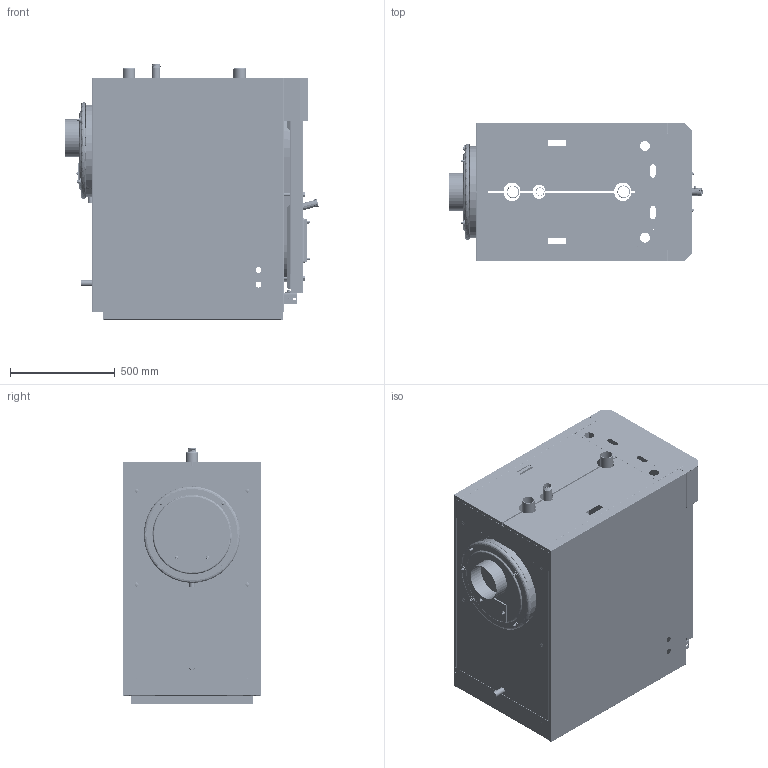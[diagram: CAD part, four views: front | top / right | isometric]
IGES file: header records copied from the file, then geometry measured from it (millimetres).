
Start section: START RECORD GO HERE.
Global section: file name: 20039921 - RTS 115 2S.igs; native system: DASSAULT SYSTEMES CATIA V5 R20 - www.3ds.com; preprocessor: CATIA Version 5 Release 20 SP 6 ; author: Riello S.p.A.; organization: RIELLO-IT; date: 20170612.100729; units: millimetre
Bounding box: 1211.6 x 660 x 1222 mm (x, y, z)
Surface area: 15570728.1 mm2 (no closed solid volume)
Topology: 0 solids, 0 shells, 5602 faces, 27116 edges, 27071 vertices
Faces by surface type: plane 3088, revolution 2285, bspline 229
